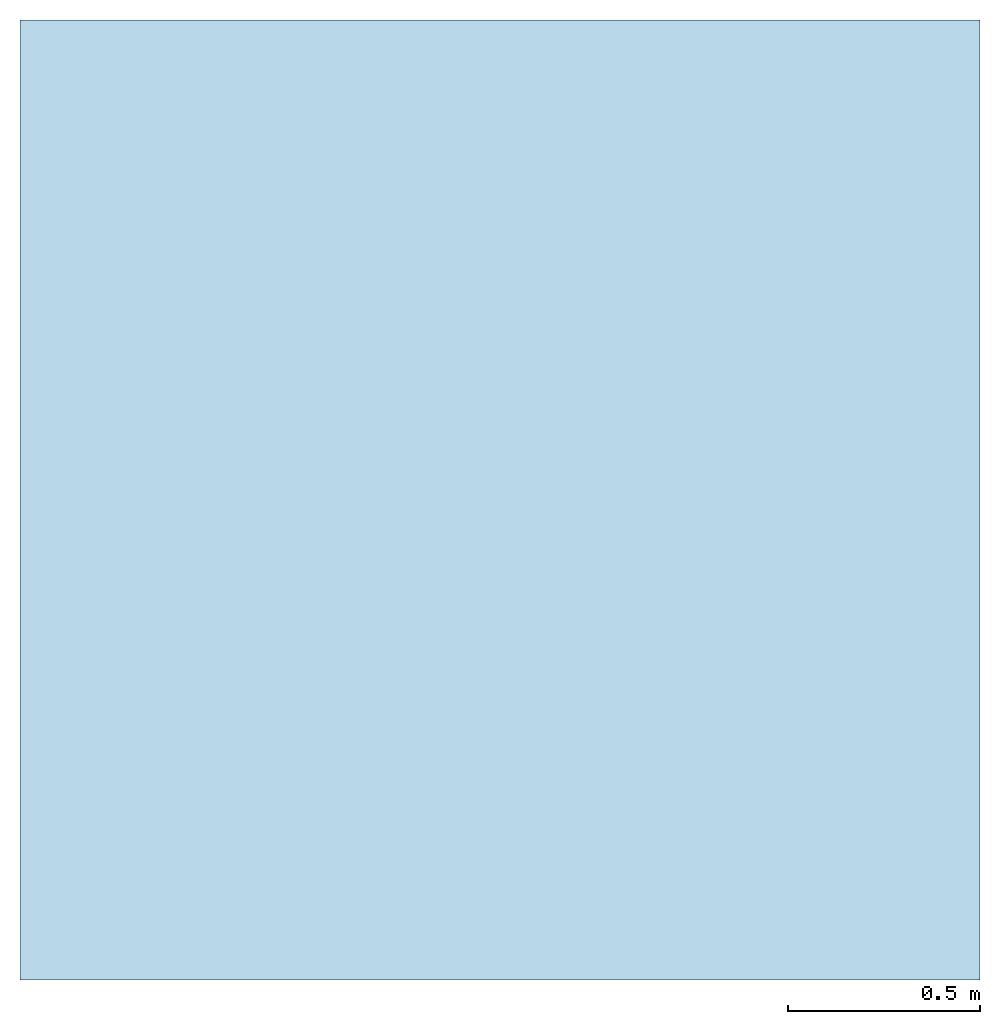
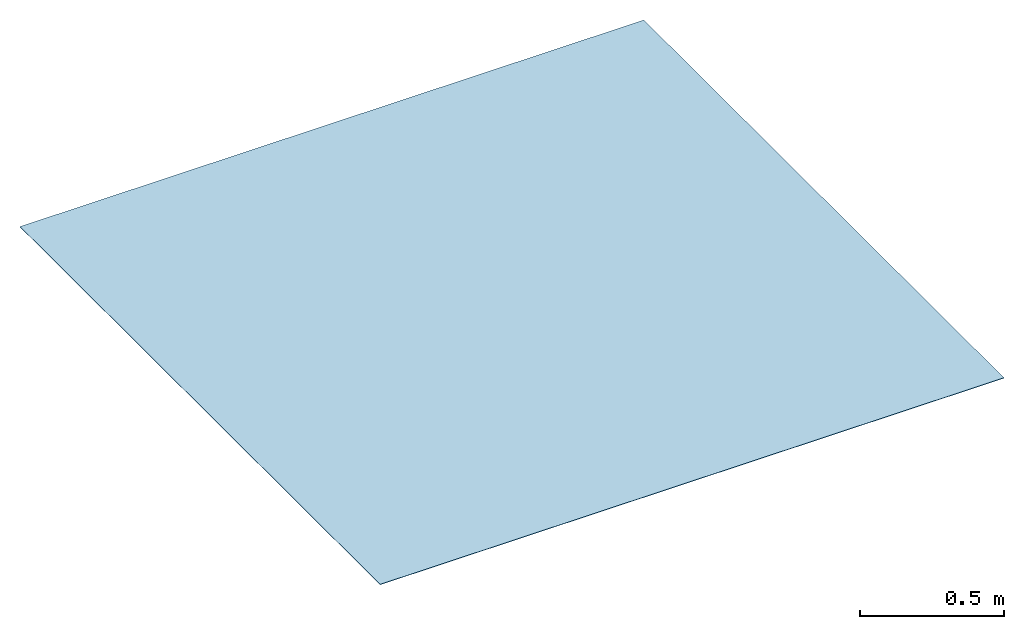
# Not in any storey: 1 slab.
"""IFC2X3 building model written with IfcOpenShell, lengths in millimetres."""

from ifc_helpers import new_model, si_unit, frame, frame_2d, origin, origin_with_axes, origin_2d, place, context, project, spatial, rectangle, extrude, material, layer, layer_set, layer_usage, type_object, element, save


model = new_model("IFC2X3")

# Units and contexts
model_context = context("Model", 3, precision=1e-05, world=origin())
plan_context = context("Plan", 2, precision=1e-05, world=origin_2d())
ifc_project = project(units=[si_unit("LENGTHUNIT", "METRE", prefix="MILLI"), si_unit("AREAUNIT", "SQUARE_METRE"), si_unit("VOLUMEUNIT", "CUBIC_METRE"), si_unit("SOLIDANGLEUNIT", "STERADIAN"), si_unit("PLANEANGLEUNIT", "RADIAN"), si_unit("MASSUNIT", "GRAM"), si_unit("TIMEUNIT", "SECOND"), si_unit("THERMODYNAMICTEMPERATUREUNIT", "DEGREE_CELSIUS"), si_unit("LUMINOUSINTENSITYUNIT", "LUMEN")], contexts=[model_context, plan_context])

# Site, building
site_placement = place(None, frame((0.0, 0.0, 0.0), z_axis=(0.0, 1.0, 0.0), x_axis=(0.0, 0.0, 1.0)))
site = spatial("IfcSite", under=ifc_project, at=site_placement, Name="Default site", CompositionType="ELEMENT")
building_placement = place(site_placement, frame((0.0, 0.0, 0.0), z_axis=(0.0, 1.0, 0.0), x_axis=(0.0, 0.0, 1.0)))
building = spatial("IfcBuilding", under=site, at=building_placement, Name="Default building", CompositionType="ELEMENT")

# Slab
ifc_material = material(Name="NBS_DeltaMembranes_CrysztnActvSlrryMtr_KosterNB1")
ifc_layer = layer(ifc_material, 2.0, ventilated=False)
ifc_layer_set = layer_set([ifc_layer], Name="NBS_DeltaMembranes_CrysztnActvSlrryMtr_KosterNB1")
ifc_layer_usage = layer_usage(ifc_layer_set, "AXIS3", "NEGATIVE", 0.0)
slab_type = type_object("IfcSlabType", Name="NBS_DeltaMembranes_CrysztnActvSlrryMtr_KosterNB1", PredefinedType="FLOOR", material=ifc_layer_set)
slab_placement = place(None, origin())
element("IfcSlab", 1, at=slab_placement, inside=building, type_object=slab_type, material=ifc_layer_usage, Name="NBS_DeltaMembranes_CrysztnActvSlrryMtr_KosterNB1", PredefinedType="FLOOR", context=model_context, shape_type="SweptSolid", body=[
    extrude(rectangle(XDim=2500.0, YDim=2500.0, at=frame_2d((1250.0, 1250.0))), origin_with_axes(), (0.0, 0.0, 1.0), 2.0),
])

save(model, "model.ifc")
